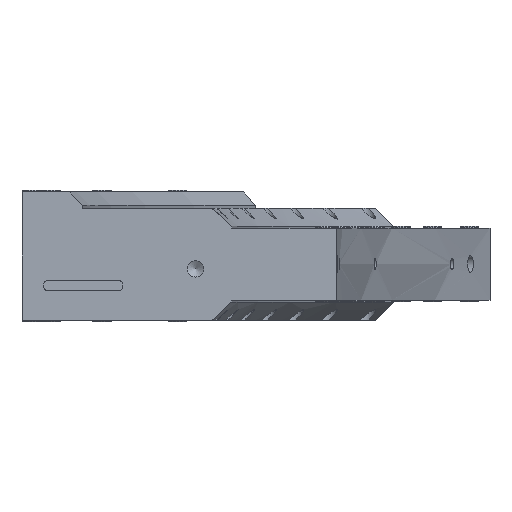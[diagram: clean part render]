
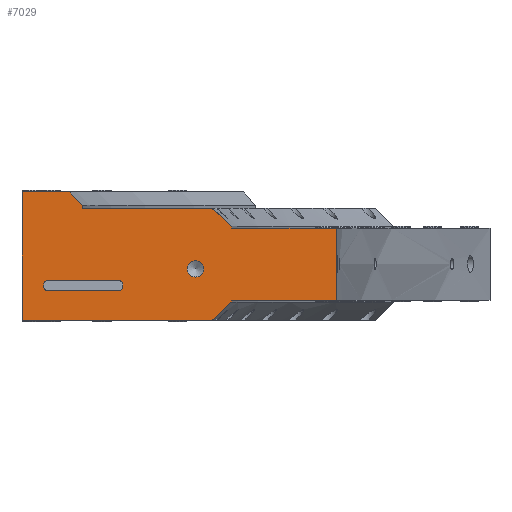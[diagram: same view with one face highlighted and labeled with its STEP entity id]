
A CAD part, left-side view. The second image highlights one B-rep face of the part: STEP entity #7029.
In plain terms, the highlighted planar face has unit normal (-1, 0, 0).
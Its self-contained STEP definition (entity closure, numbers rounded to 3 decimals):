
#150=FACE_BOUND('',#1796,.T.);
#151=FACE_BOUND('',#1797,.T.);
#265=LINE('',#10419,#727);
#453=LINE('',#11159,#915);
#505=LINE('',#11361,#967);
#509=LINE('',#11373,#971);
#513=LINE('',#11385,#975);
#517=LINE('',#11396,#979);
#534=LINE('',#11721,#996);
#535=LINE('',#11725,#997);
#536=LINE('',#11726,#998);
#537=LINE('',#11728,#999);
#538=LINE('',#11729,#1000);
#539=LINE('',#11731,#1001);
#540=LINE('',#11733,#1002);
#541=LINE('',#11735,#1003);
#542=LINE('',#11737,#1004);
#543=LINE('',#11739,#1005);
#544=LINE('',#11740,#1006);
#727=VECTOR('',#8157,10.);
#915=VECTOR('',#8799,10.);
#967=VECTOR('',#9009,10.);
#971=VECTOR('',#9021,10.);
#975=VECTOR('',#9033,10.);
#979=VECTOR('',#9045,10.);
#996=VECTOR('',#9224,10.);
#997=VECTOR('',#9229,10.);
#998=VECTOR('',#9230,10.);
#999=VECTOR('',#9231,10.);
#1000=VECTOR('',#9232,10.);
#1001=VECTOR('',#9233,10.);
#1002=VECTOR('',#9234,10.);
#1003=VECTOR('',#9235,10.);
#1004=VECTOR('',#9236,10.);
#1005=VECTOR('',#9237,10.);
#1006=VECTOR('',#9238,10.);
#1422=FACE_OUTER_BOUND('',#1795,.T.);
#1795=EDGE_LOOP('',(#5545,#5546,#5547,#5548,#5549,#5550,#5551,#5552,#5553,
#5554,#5555,#5556,#5557));
#1796=EDGE_LOOP('',(#5558));
#1797=EDGE_LOOP('',(#5559,#5560,#5561,#5562,#5563,#5564,#5565,#5566));
#2255=CIRCLE('',#7541,2.5);
#2256=CIRCLE('',#7543,1.);
#2258=CIRCLE('',#7547,1.);
#2260=CIRCLE('',#7551,1.);
#2262=CIRCLE('',#7555,1.);
#2630=VERTEX_POINT('',#10416);
#2631=VERTEX_POINT('',#10418);
#2955=VERTEX_POINT('',#11156);
#2956=VERTEX_POINT('',#11158);
#3022=VERTEX_POINT('',#11347);
#3023=VERTEX_POINT('',#11351);
#3024=VERTEX_POINT('',#11352);
#3027=VERTEX_POINT('',#11360);
#3029=VERTEX_POINT('',#11366);
#3031=VERTEX_POINT('',#11372);
#3033=VERTEX_POINT('',#11378);
#3035=VERTEX_POINT('',#11384);
#3037=VERTEX_POINT('',#11390);
#3084=VERTEX_POINT('',#11718);
#3085=VERTEX_POINT('',#11720);
#3086=VERTEX_POINT('',#11724);
#3087=VERTEX_POINT('',#11727);
#3088=VERTEX_POINT('',#11730);
#3089=VERTEX_POINT('',#11732);
#3090=VERTEX_POINT('',#11734);
#3091=VERTEX_POINT('',#11736);
#3092=VERTEX_POINT('',#11738);
#3507=EDGE_CURVE('',#2630,#2631,#265,.T.);
#3858=EDGE_CURVE('',#2955,#2956,#453,.T.);
#3949=EDGE_CURVE('',#3022,#3022,#2255,.T.);
#3951=EDGE_CURVE('',#3023,#3024,#2256,.T.);
#3955=EDGE_CURVE('',#3024,#3027,#505,.T.);
#3958=EDGE_CURVE('',#3027,#3029,#2258,.T.);
#3961=EDGE_CURVE('',#3029,#3031,#509,.T.);
#3964=EDGE_CURVE('',#3031,#3033,#2260,.T.);
#3967=EDGE_CURVE('',#3033,#3035,#513,.T.);
#3970=EDGE_CURVE('',#3035,#3037,#2262,.T.);
#3973=EDGE_CURVE('',#3037,#3023,#517,.T.);
#4043=EDGE_CURVE('',#3084,#3085,#534,.T.);
#4045=EDGE_CURVE('',#3086,#3084,#535,.T.);
#4046=EDGE_CURVE('',#3086,#2956,#536,.T.);
#4047=EDGE_CURVE('',#3087,#2955,#537,.T.);
#4048=EDGE_CURVE('',#2631,#3087,#538,.T.);
#4049=EDGE_CURVE('',#3088,#2630,#539,.T.);
#4050=EDGE_CURVE('',#3089,#3088,#540,.T.);
#4051=EDGE_CURVE('',#3089,#3090,#541,.T.);
#4052=EDGE_CURVE('',#3090,#3091,#542,.T.);
#4053=EDGE_CURVE('',#3091,#3092,#543,.T.);
#4054=EDGE_CURVE('',#3092,#3085,#544,.T.);
#5545=ORIENTED_EDGE('',*,*,#4043,.F.);
#5546=ORIENTED_EDGE('',*,*,#4045,.F.);
#5547=ORIENTED_EDGE('',*,*,#4046,.T.);
#5548=ORIENTED_EDGE('',*,*,#3858,.F.);
#5549=ORIENTED_EDGE('',*,*,#4047,.F.);
#5550=ORIENTED_EDGE('',*,*,#4048,.F.);
#5551=ORIENTED_EDGE('',*,*,#3507,.F.);
#5552=ORIENTED_EDGE('',*,*,#4049,.F.);
#5553=ORIENTED_EDGE('',*,*,#4050,.F.);
#5554=ORIENTED_EDGE('',*,*,#4051,.T.);
#5555=ORIENTED_EDGE('',*,*,#4052,.T.);
#5556=ORIENTED_EDGE('',*,*,#4053,.T.);
#5557=ORIENTED_EDGE('',*,*,#4054,.T.);
#5558=ORIENTED_EDGE('',*,*,#3949,.T.);
#5559=ORIENTED_EDGE('',*,*,#3951,.T.);
#5560=ORIENTED_EDGE('',*,*,#3955,.T.);
#5561=ORIENTED_EDGE('',*,*,#3958,.T.);
#5562=ORIENTED_EDGE('',*,*,#3961,.T.);
#5563=ORIENTED_EDGE('',*,*,#3964,.T.);
#5564=ORIENTED_EDGE('',*,*,#3967,.T.);
#5565=ORIENTED_EDGE('',*,*,#3970,.T.);
#5566=ORIENTED_EDGE('',*,*,#3973,.T.);
#6792=PLANE('',#7640);
#7029=ADVANCED_FACE('',(#1422,#150,#151),#6792,.T.);
#7541=AXIS2_PLACEMENT_3D('',#11348,#8996,#8997);
#7543=AXIS2_PLACEMENT_3D('',#11353,#9001,#9002);
#7547=AXIS2_PLACEMENT_3D('',#11367,#9014,#9015);
#7551=AXIS2_PLACEMENT_3D('',#11379,#9026,#9027);
#7555=AXIS2_PLACEMENT_3D('',#11391,#9038,#9039);
#7640=AXIS2_PLACEMENT_3D('',#11723,#9227,#9228);
#8157=DIRECTION('',(0.,1.,0.));
#8799=DIRECTION('',(0.,1.,0.));
#8996=DIRECTION('center_axis',(1.,0.,0.));
#8997=DIRECTION('ref_axis',(0.,0.,-1.));
#9001=DIRECTION('center_axis',(1.,0.,0.));
#9002=DIRECTION('ref_axis',(0.,0.,-1.));
#9009=DIRECTION('',(0.,0.,1.));
#9014=DIRECTION('center_axis',(1.,0.,0.));
#9015=DIRECTION('ref_axis',(0.,1.,0.));
#9021=DIRECTION('',(0.,-1.,0.));
#9026=DIRECTION('center_axis',(1.,0.,0.));
#9027=DIRECTION('ref_axis',(0.,0.,
1.));
#9033=DIRECTION('',(0.,0.,-1.));
#9038=DIRECTION('center_axis',(1.,0.,0.));
#9039=DIRECTION('ref_axis',(0.,-1.,0.));
#9045=DIRECTION('',(0.,1.,0.));
#9224=DIRECTION('',(0.,-0.707,-0.707));
#9227=DIRECTION('center_axis',(-1.,0.,0.));
#9228=DIRECTION('ref_axis',(0.,-1.,0.));
#9229=DIRECTION('',(0.,-1.,0.));
#9230=DIRECTION('',(0.,0.,-1.));
#9231=DIRECTION('',(0.,0.737,-0.676));
#9232=DIRECTION('',(0.,0.,-1.));
#9233=DIRECTION('',(0.,0.,-1.));
#9234=DIRECTION('',(0.,-1.,0.));
#9235=DIRECTION('',(0.,0.,1.));
#9236=DIRECTION('',(0.,0.737,0.676));
#9237=DIRECTION('',(0.,1.,0.));
#9238=DIRECTION('',(0.,0.,1.));
#10416=CARTESIAN_POINT('',(0.,616.62,-10.95));
#10418=CARTESIAN_POINT('',(0.,648.6,-10.95));
#10419=CARTESIAN_POINT('',(0.,616.62,-10.95));
#11156=CARTESIAN_POINT('',(0.,654.602,-17.05));
#11158=CARTESIAN_POINT('',(0.,712.62,-17.05));
#11159=CARTESIAN_POINT('',(0.,616.62,-17.05));
#11347=CARTESIAN_POINT('',(0.,659.62,1.05));
#11348=CARTESIAN_POINT('Origin',(0.,659.62,
-1.45));
#11351=CARTESIAN_POINT('',(0.,704.92,-8.05));
#11352=CARTESIAN_POINT('',(0.,705.92,-7.05));
#11353=CARTESIAN_POINT('Origin',(0.,704.92,
-7.05));
#11360=CARTESIAN_POINT('',(0.,705.92,-6.05));
#11361=CARTESIAN_POINT('',(0.,705.92,-3.025));
#11366=CARTESIAN_POINT('',(0.,704.92,-5.05));
#11367=CARTESIAN_POINT('Origin',(0.,704.92,
-6.05));
#11372=CARTESIAN_POINT('',(0.,682.92,-5.05));
#11373=CARTESIAN_POINT('',(0.,697.77,-5.05));
#11378=CARTESIAN_POINT('',(0.,681.92,-6.05));
#11379=CARTESIAN_POINT('Origin',(0.,682.92,
-6.05));
#11384=CARTESIAN_POINT('',(0.,681.92,-7.05));
#11385=CARTESIAN_POINT('',(0.,681.92,-3.525));
#11390=CARTESIAN_POINT('',(0.,682.92,-8.05));
#11391=CARTESIAN_POINT('Origin',(0.,682.92,
-7.05));
#11396=CARTESIAN_POINT('',(0.,708.77,-8.05));
#11718=CARTESIAN_POINT('',(0.,698.1,22.05));
#11720=CARTESIAN_POINT('',(0.,694.1,18.05));
#11721=CARTESIAN_POINT('',(0.,696.1,20.05));
#11723=CARTESIAN_POINT('Origin',(0.,712.62,0.));
#11724=CARTESIAN_POINT('',(0.,712.62,22.05));
#11725=CARTESIAN_POINT('',(0.,654.602,22.05));
#11726=CARTESIAN_POINT('',(0.,712.62,0.));
#11727=CARTESIAN_POINT('',(0.,648.6,-11.55));
#11728=CARTESIAN_POINT('',(0.,651.601,-14.3));
#11729=CARTESIAN_POINT('',(0.,648.6,-11.05));
#11730=CARTESIAN_POINT('',(0.,616.62,11.05));
#11731=CARTESIAN_POINT('',(0.,616.62,0.));
#11732=CARTESIAN_POINT('',(0.,648.6,11.05));
#11733=CARTESIAN_POINT('',(0.,616.62,11.05));
#11734=CARTESIAN_POINT('',(0.,648.6,11.55));
#11735=CARTESIAN_POINT('',(0.,648.6,11.05));
#11736=CARTESIAN_POINT('',(0.,654.602,17.05));
#11737=CARTESIAN_POINT('',(0.,651.601,14.3));
#11738=CARTESIAN_POINT('',(0.,694.1,17.05));
#11739=CARTESIAN_POINT('',(0.,616.62,17.05));
#11740=CARTESIAN_POINT('',(0.,694.1,17.05));
